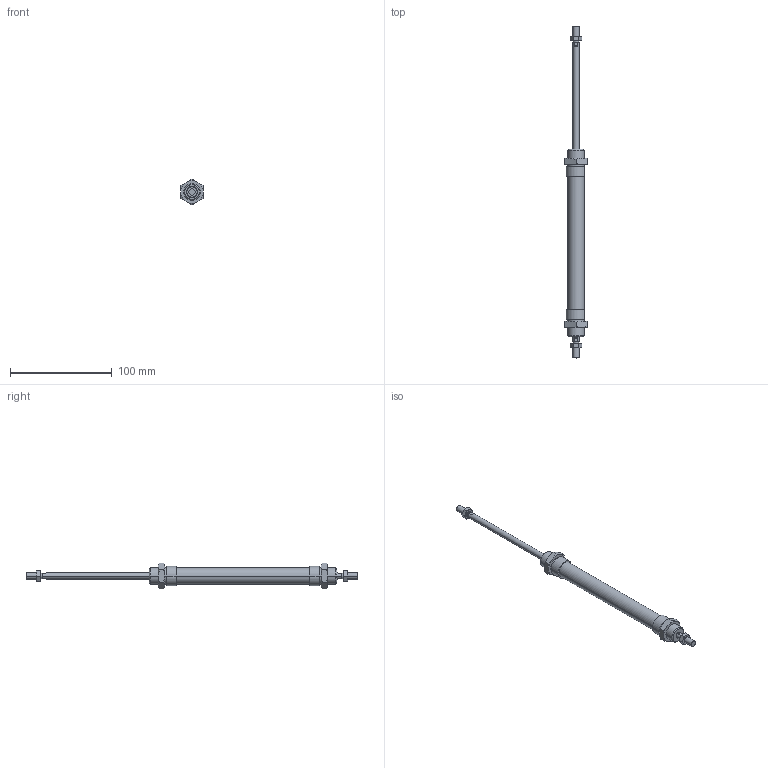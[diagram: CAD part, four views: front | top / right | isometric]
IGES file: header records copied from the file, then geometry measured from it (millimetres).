
Global section: file name: No Iges File Name specified; native system: AutoDesk Inventor R6.0; preprocessor: AutoDesk Inventor Iges Exporter R6.0; author: No Author specified; organization: No Organization specified; date: 20030403.072043; units: millimetre
Bounding box: 22 x 326 x 25.4 mm (x, y, z)
Volume: 45664.4 mm3; surface area: 22779.1 mm2
Topology: 6 solids, 6 shells, 180 faces, 388 edges, 228 vertices
Faces by surface type: cone 68, plane 56, bspline 30, cylinder 20, revolution 6
